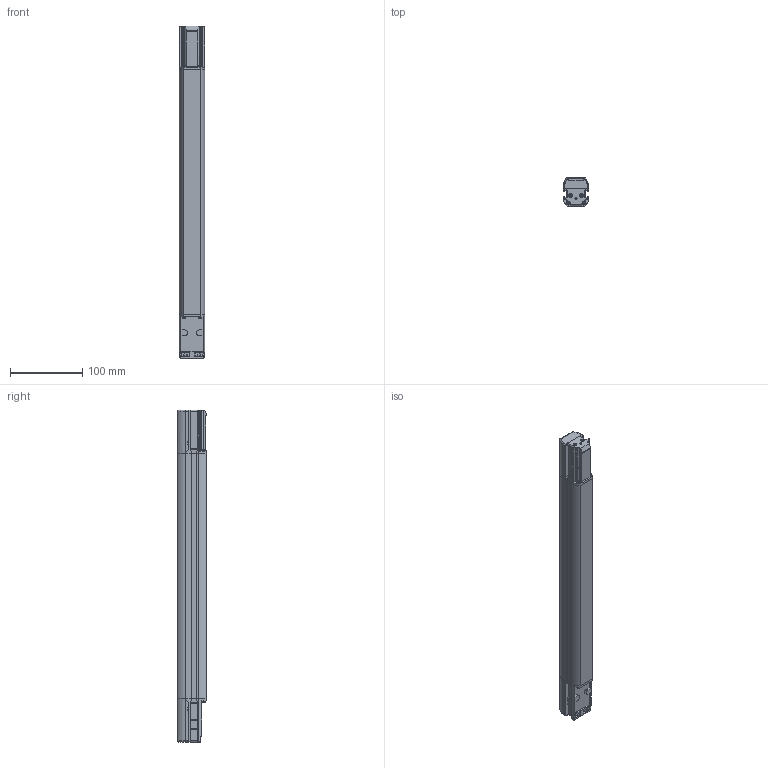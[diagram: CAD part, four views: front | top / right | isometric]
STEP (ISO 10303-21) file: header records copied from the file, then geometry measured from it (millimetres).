
FILE_DESCRIPTION(/* description */ (''),/* implementation_level */ '2;1');
FILE_NAME(/* name */ 'SH4 - 0450 mm DSD Barriera senza Smart Plug.stp',/* time_stamp */ '2022-12-02T18:23:52+01:00',/* author */ (''),/* organization */ (''),/* preprocessor_version */ 'ST-DEVELOPER v16.701',/* originating_system */ 'SIEMENS PLM Software NX 1946',/* authorisation */ '');
FILE_SCHEMA (('AP203_CONFIGURATION_CONTROLLED_3D_DESIGN_OF_MECHANICAL_PARTS_AND_ASSEMBLIES_MIM_LF { 1 0 10303 403 2 1 2}'));
Length unit declared in the file: millimetre
Products named in the file (1): MRos63D4F2E59wv4
Bounding box: 35.08 x 40 x 459 mm (x, y, z)
Volume: 517550.3 mm3; surface area: 120035.1 mm2
Topology: 6 solids, 11 shells, 891 faces, 2428 edges, 1549 vertices
Faces by surface type: plane 363, cylinder 315, bspline 92, cone 55, extrusion 24, sphere 22, torus 20
Full cylindrical faces by diameter (mm): 2.013 x4, 2.2 x4, 3 x4, 4.37 x4, 5 x8
Entity records: 34734 total; most frequent: CARTESIAN_POINT 13104, ORIENTED_EDGE 4576, DIRECTION 3865, EDGE_CURVE 2288, VERTEX_POINT 1515, AXIS2_PLACEMENT_3D 1345, VECTOR 1175, LINE 1151
